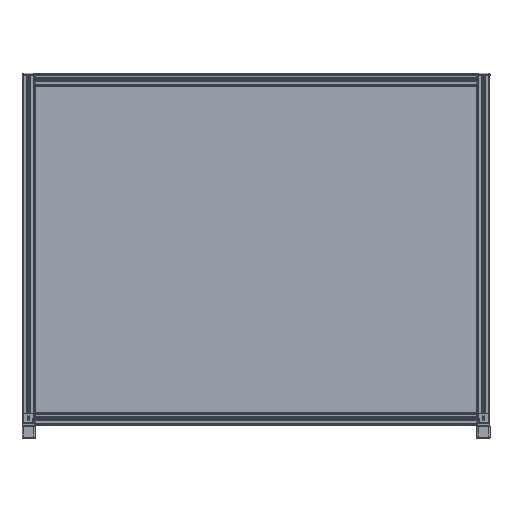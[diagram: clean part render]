
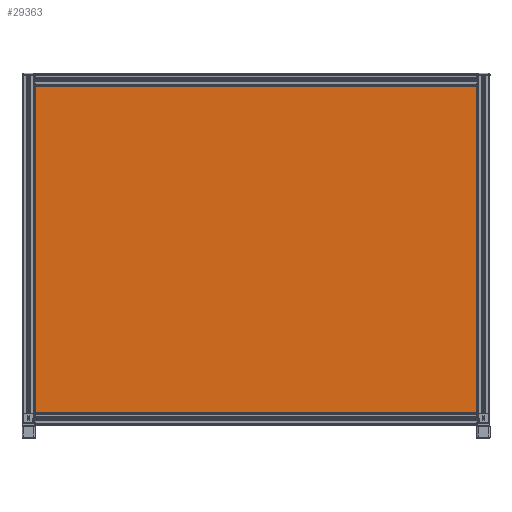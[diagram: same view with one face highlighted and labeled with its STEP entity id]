
A CAD part, top view. The second image highlights one B-rep face of the part: STEP entity #29363.
In plain terms, the highlighted planar face has unit normal (0, 0, 1).
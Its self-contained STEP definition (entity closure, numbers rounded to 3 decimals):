
#3906 = LINE ( 'NONE', #27347, #29483 ) ;
#4808 = ORIENTED_EDGE ( 'NONE', *, *, #7939, .T. ) ;
#5366 = CARTESIAN_POINT ( 'NONE',  ( -380., -512.5, 4. ) ) ;
#7255 = VECTOR ( 'NONE', #31669, 1000. ) ;
#7648 = CARTESIAN_POINT ( 'NONE',  ( 380., 512.5, 4. ) ) ;
#7939 = EDGE_CURVE ( 'NONE', #14779, #20005, #19480, .T. ) ;
#8218 = EDGE_CURVE ( 'NONE', #13551, #14779, #19445, .T. ) ;
#10048 = ORIENTED_EDGE ( 'NONE', *, *, #28433, .T. ) ;
#10475 = AXIS2_PLACEMENT_3D ( 'NONE', #12096, #30191, #14598 ) ;
#11157 = CARTESIAN_POINT ( 'NONE',  ( 380., -512.5, 4. ) ) ;
#11365 = CARTESIAN_POINT ( 'NONE',  ( -380., 512.5, 4. ) ) ;
#12096 = CARTESIAN_POINT ( 'NONE',  ( 0., 0., 4. ) ) ;
#12136 = VECTOR ( 'NONE', #20926, 1000. ) ;
#13281 = DIRECTION ( 'NONE',  ( 0., -1., 0. ) ) ;
#13551 = VERTEX_POINT ( 'NONE', #11365 ) ;
#13885 = CARTESIAN_POINT ( 'NONE',  ( -380., -512.5, 4. ) ) ;
#14598 = DIRECTION ( 'NONE',  ( 1., 0., 0. ) ) ;
#14779 = VERTEX_POINT ( 'NONE', #13885 ) ;
#17981 = EDGE_CURVE ( 'NONE', #20005, #25526, #19615, .T. ) ;
#18939 = EDGE_LOOP ( 'NONE', ( #20144, #4808, #19517, #10048 ) ) ;
#19445 = LINE ( 'NONE', #5366, #21772 ) ;
#19480 = LINE ( 'NONE', #21262, #12136 ) ;
#19517 = ORIENTED_EDGE ( 'NONE', *, *, #17981, .T. ) ;
#19615 = LINE ( 'NONE', #28879, #7255 ) ;
#20005 = VERTEX_POINT ( 'NONE', #11157 ) ;
#20144 = ORIENTED_EDGE ( 'NONE', *, *, #8218, .T. ) ;
#20926 = DIRECTION ( 'NONE',  ( 1., 0., 0. ) ) ;
#21262 = CARTESIAN_POINT ( 'NONE',  ( 380., -512.5, 4. ) ) ;
#21772 = VECTOR ( 'NONE', #13281, 1000. ) ;
#22328 = DIRECTION ( 'NONE',  ( -1., 0., 0. ) ) ;
#25526 = VERTEX_POINT ( 'NONE', #7648 ) ;
#27165 = PLANE ( 'NONE',  #10475 ) ;
#27347 = CARTESIAN_POINT ( 'NONE',  ( 380., 512.5, 4. ) ) ;
#28433 = EDGE_CURVE ( 'NONE', #25526, #13551, #3906, .T. ) ;
#28879 = CARTESIAN_POINT ( 'NONE',  ( 380., -512.5, 4. ) ) ;
#29363 = ADVANCED_FACE ( 'NONE', ( #29828 ), #27165, .T. ) ;
#29483 = VECTOR ( 'NONE', #22328, 1000. ) ;
#29828 = FACE_OUTER_BOUND ( 'NONE', #18939, .T. ) ;
#30191 = DIRECTION ( 'NONE',  ( 0., 0., 1. ) ) ;
#31669 = DIRECTION ( 'NONE',  ( 0., 1., 0. ) ) ;
